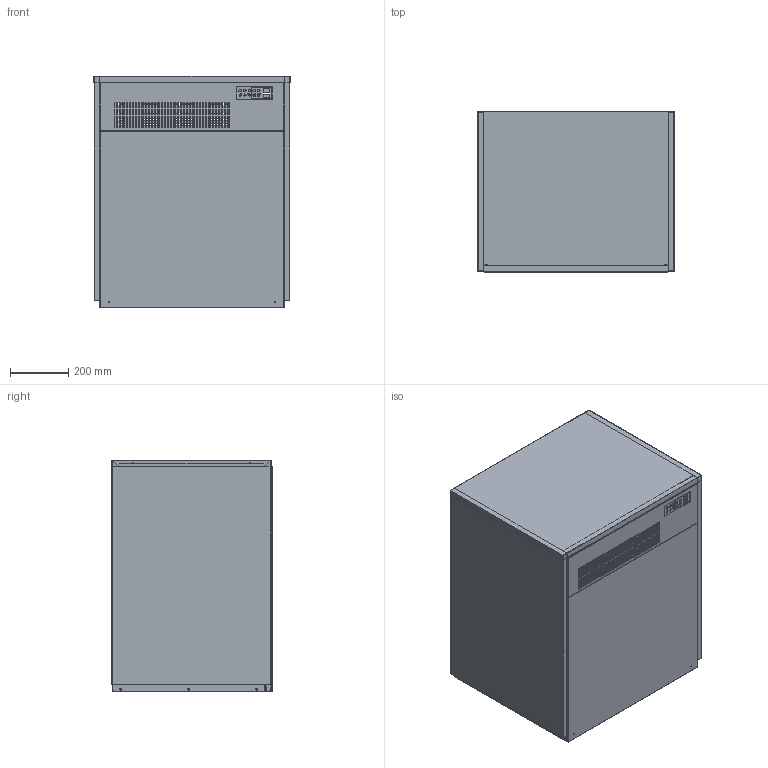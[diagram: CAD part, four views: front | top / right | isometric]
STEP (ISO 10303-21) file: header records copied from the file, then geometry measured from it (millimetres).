
FILE_DESCRIPTION(/* description */ ('Unknown'),/* implementation_level */ '2;1');
FILE_NAME(/* name */ 'IQ-550-REMOTA',/* time_stamp */ '2018-04-23T14:56:48+02:00',/* author */ ('Unknown'),/* organization */ ('Unknown'),/* preprocessor_version */ 'ST-DEVELOPER v16.7',/* originating_system */ 'DEX',/* authorisation */ $);
FILE_SCHEMA (('CONFIG_CONTROL_DESIGN'));
Products named in the file (12): IQ-550-REMOTA; 24-18+2475; 24-26+8777; 24-26+8778; 24-29+8782; 24-57+2715; 24-27+8784; 24-218+6648+ce+I; 24-255+8783; Pilotos-IQ_oa_0; 24-223; 24-254+8780
Assembly tree (11 placements, depth 3):
  IQ-550-REMOTA
    24-18+2475
    24-26+8777
    24-26+8778
    24-29+8782
    24-57+2715
    24-27+8784
    24-218+6648+ce+I
    24-255+8783
    Pilotos-IQ_oa_0
      24-223
    24-254+8780
Bounding box: 675.2 x 551 x 795.6 mm (x, y, z)
Volume: 2506499.1 mm3; surface area: 6207434.7 mm2
Topology: 10 solids, 10 shells, 2054 faces, 5710 edges, 3707 vertices
Faces by surface type: plane 1534, cylinder 460, bspline 60
Full cylindrical faces by diameter (mm): 1 x35, 2.5 x1, 2.542 x1, 2.546 x1, 2.626 x1, 2.7 x7, 2.75 x13, 3.25 x4, 3.5 x16, 4 x16, 4.2 x6, 4.25 x26, 5 x10, 6 x48, 6.25 x2, 7 x2, 8 x7, 8.5 x1, 9 x5, 15 x2, 22 x1, 30 x2
Entity records: 68064 total; most frequent: CARTESIAN_POINT 12588, ORIENTED_EDGE 10868, DIRECTION 10164, EDGE_CURVE 5434, LINE 4472, VECTOR 4472, VERTEX_POINT 3638, EDGE_LOOP 3052
